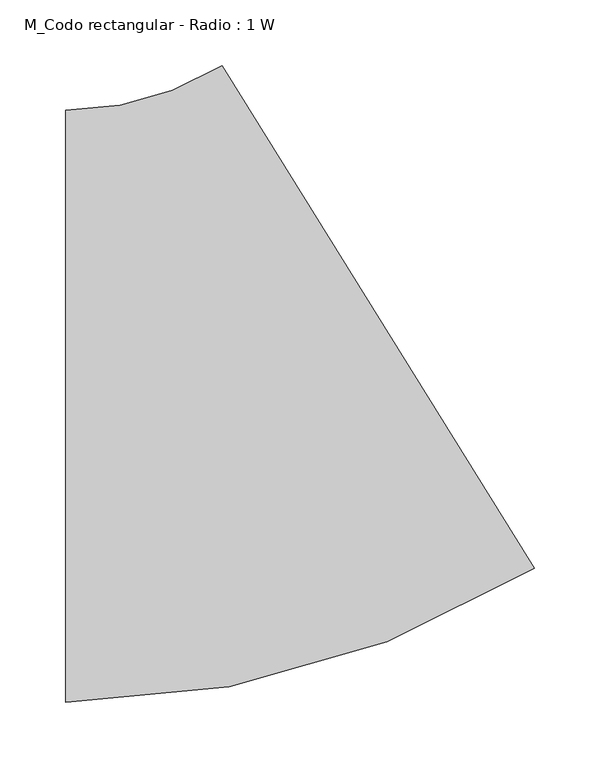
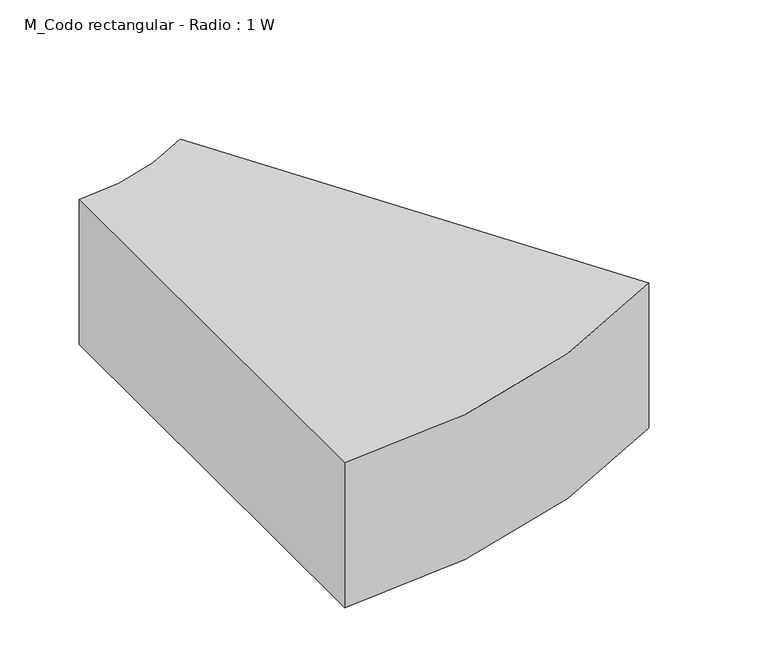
"""IFC4 building model written with IfcOpenShell, lengths in millimetres: duct fitting geometry, M_Codo rectangular - Radio : 1 W."""

from ifc_helpers import new_model, si_unit, point, frame, frame_2d, origin, place, context, project, spatial, polyline, circle_curve, trimmed, segment, composite_curve, outline, extrude, source, transform, mapped, element, save


def m_codo_rectangular_radio_1_w_1f97e8b7(model_context):
    return source(origin(), model_context, "Body", "SweptSolid", [
        extrude(outline(composite_curve([segment(trimmed(circle_curve(frame_2d((-128.4886799, 450.0)), 675.0), [point((227.9201962, -123.2344312))], [point((-128.4886799, -225.0))], False, "CARTESIAN"), True, "CONTINUOUS"), segment(polyline([(-128.4886799, -225.0), (-128.4886799, 225.0)]), True, "CONTINUOUS"), segment(trimmed(circle_curve(frame_2d((-128.4886799, 450.0)), 225.0), [point((-128.4886799, 225.0))], [point((-9.6857212, 258.9218563))], True, "CARTESIAN"), True, "CONTINUOUS"), segment(polyline([(-9.6857212, 258.9218563), (227.9201962, -123.2344312)]), True, "CONTINUOUS")], self_intersect=False)), frame((0.0, 0.0, -75.0), z_axis=(0.0, 0.0, 1.0), x_axis=(1.0, 0.0, 0.0)), (0.0, 0.0, 1.0), 150.0),
    ])


if __name__ == "__main__":
    model = new_model("IFC4")
    model_context = context("Model", 3, world=origin())
    ifc_project = project(units=[si_unit("LENGTHUNIT", "METRE", prefix="MILLI")], contexts=[model_context])
    site = spatial("IfcSite", under=ifc_project)
    building = spatial("IfcBuilding", under=site)
    placement = place(None, origin())
    m_codo_rectangular_radio_1_w_shape = m_codo_rectangular_radio_1_w_1f97e8b7(model_context)
    element("IfcDuctFitting", 1, ObjectType="M_Codo rectangular - Radio : 1 W", at=placement, inside=building, context=model_context, shape_type="MappedRepresentation", body=[
        mapped(m_codo_rectangular_radio_1_w_shape, transform((0.0, 0.0, 0.0), x_axis=(1.0, 0.0, 0.0), y_axis=(0.0, 1.0, 0.0), z_axis=(0.0, 0.0, 1.0))),
    ])
    save(model, "model.ifc")
